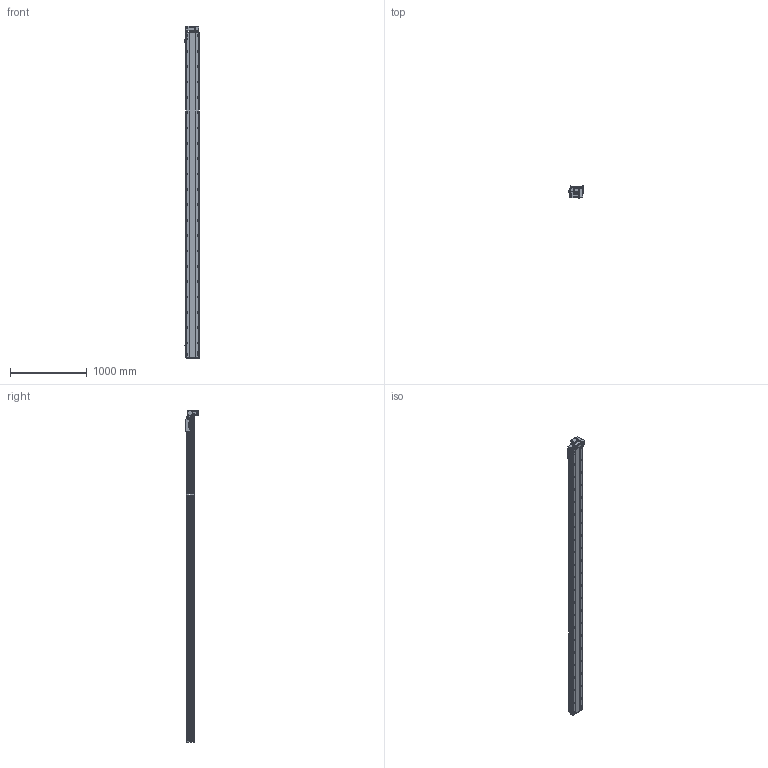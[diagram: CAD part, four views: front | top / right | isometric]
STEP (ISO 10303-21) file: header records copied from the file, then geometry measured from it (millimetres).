
FILE_DESCRIPTION (( 'STEP AP214' ), '1' );
FILE_NAME ('RTB17S-XX-3950-RM-M40-C4.STEP', '2025-12-11T08:42:19', ( '' ), ( '' ), 'SwSTEP 2.0', 'SolidWorks 2018', '' );
FILE_SCHEMA (( 'AUTOMOTIVE_DESIGN' ));
Length unit declared in the file: millimetre
Products named in the file (14): RTB17S-XX-3950-RM-M40-C4; RTB17S-L-004佪裝蹟譫蟀諉釱^RTB17S-XX-XX-RM-M40-C4; RTB14-L-017P^RTB17S-RM-々湍釱蚾饜-400W_RTB17S-XX-XX-RM-M40-C4; RTB17-R-011菁釱^RTB17S-XX-XX-RM-M40-C4; RTB14-L-018P^RTB17S-RM-々湍釱蚾饜-400W_RTB17S-XX-XX-RM-M40-C4; RTB17S-RM-々湍釱蚾饜-400W^RTB17S-XX-XX-RM-M40-C4; RTB14-L-008-M20--萇儂啣^RTB17S-RM-々湍釱蚾饜-400W_RTB17S-XX-XX-RM-M40-C4; RTB17S-L-001耜醱啣^RTB17S-XX-XX-RM-M40-C4; RTB17S-L-014-T20--々湍釱^RTB17S-RM-々湍釱蚾饜-400W_RTB17S-XX-XX-RM-M40-C4; RTB14-L-005P--轴承塑胶压盖^RTB17S-RM-皮带座装配-400W_RTB17S-XX-XX-RM-M40-C4; OMRON EE-SX672 传感器^RTB17S-XX-XX-RM-M40-C4; RTH13-BL-012覜茼え俋离^RTB17S-XX-XX-RM-M40-C4; RTB17S-L-007奻裔^RTB17S-XX-XX-RM-M40-C4; 400W侜督萇儂^RTB17S-XX-XX-RM-M40-C4
Assembly tree (16 placements, depth 3):
  RTB17S-XX-3950-RM-M40-C4
    RTB17-R-011菁釱^RTB17S-XX-XX-RM-M40-C4
    RTB17S-L-007奻裔^RTB17S-XX-XX-RM-M40-C4
    OMRON EE-SX672 传感器^RTB17S-XX-XX-RM-M40-C4  x3
    RTB17S-L-001耜醱啣^RTB17S-XX-XX-RM-M40-C4
    400W侜督萇儂^RTB17S-XX-XX-RM-M40-C4
    RTB17S-L-004佪裝蹟譫蟀諉釱^RTB17S-XX-XX-RM-M40-C4
    RTH13-BL-012覜茼え俋离^RTB17S-XX-XX-RM-M40-C4
    RTB17S-RM-々湍釱蚾饜-400W^RTB17S-XX-XX-RM-M40-C4
      RTB17S-L-014-T20--々湍釱^RTB17S-RM-々湍釱蚾饜-400W_RTB17S-XX-XX-RM-M40-C4
      RTB14-L-005P--轴承塑胶压盖^RTB17S-RM-皮带座装配-400W_RTB17S-XX-XX-RM-M40-C4
      RTB14-L-008-M20--萇儂啣^RTB17S-RM-々湍釱蚾饜-400W_RTB17S-XX-XX-RM-M40-C4
      RTB14-L-017P^RTB17S-RM-々湍釱蚾饜-400W_RTB17S-XX-XX-RM-M40-C4  x2
      RTB14-L-018P^RTB17S-RM-々湍釱蚾饜-400W_RTB17S-XX-XX-RM-M40-C4
Bounding box: 183.5 x 156.5 x 4322.5 mm (x, y, z)
Volume: 36431333.9 mm3; surface area: 4121474.4 mm2
Topology: 15 solids, 15 shells, 2445 faces, 6897 edges, 4509 vertices
Faces by surface type: plane 1098, cylinder 899, bspline 301, cone 139, torus 8
Entity records: 74153 total; most frequent: CARTESIAN_POINT 21302, ORIENTED_EDGE 10638, DIRECTION 9746, EDGE_CURVE 5319, VERTEX_POINT 3497, AXIS2_PLACEMENT_3D 3427, LINE 2892, VECTOR 2892
